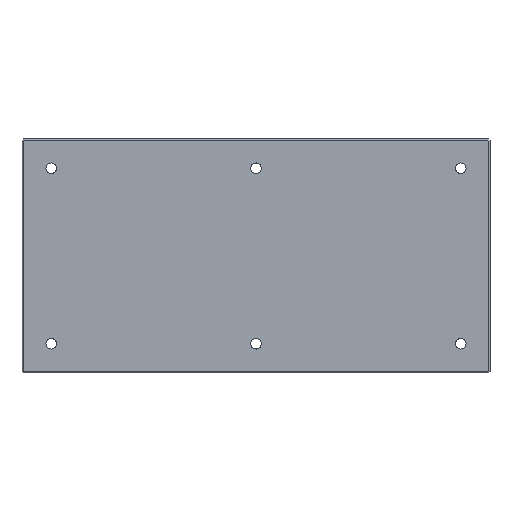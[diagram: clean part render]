
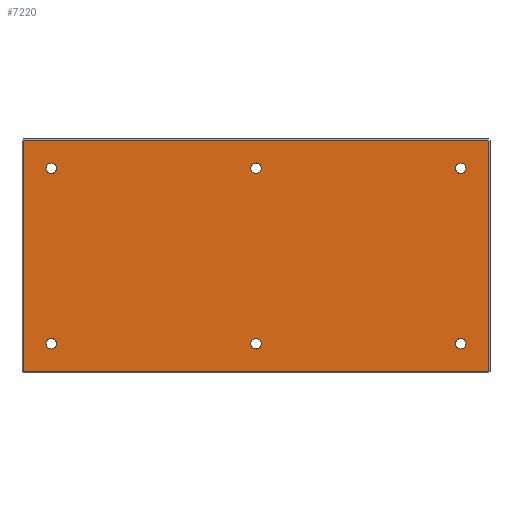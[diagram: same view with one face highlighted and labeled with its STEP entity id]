
A CAD part, front view. The second image highlights one B-rep face of the part: STEP entity #7220.
In plain terms, the highlighted planar face has unit normal (0, -1, 0).
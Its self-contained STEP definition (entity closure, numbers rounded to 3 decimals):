
#1=CARTESIAN_POINT('',(350.,-30.,150.));
#2=DIRECTION('',(0.,1.,0.));
#3=DIRECTION('',(1.,0.,0.));
#4=AXIS2_PLACEMENT_3D('',#1,#2,#3);
#6=CARTESIAN_POINT('',(350.,-30.,150.));
#7=DIRECTION('',(0.,1.,0.));
#8=DIRECTION('',(-1.,0.,0.));
#9=AXIS2_PLACEMENT_3D('',#6,#7,#8);
#11=CARTESIAN_POINT('',(0.,-30.,150.));
#12=DIRECTION('',(0.,1.,0.));
#13=DIRECTION('',(1.,0.,0.));
#14=AXIS2_PLACEMENT_3D('',#11,#12,#13);
#16=CARTESIAN_POINT('',(0.,-30.,150.));
#17=DIRECTION('',(0.,1.,0.));
#18=DIRECTION('',(-1.,0.,0.));
#19=AXIS2_PLACEMENT_3D('',#16,#17,#18);
#21=CARTESIAN_POINT('',(-350.,-30.,150.));
#22=DIRECTION('',(0.,1.,0.));
#23=DIRECTION('',(1.,0.,0.));
#24=AXIS2_PLACEMENT_3D('',#21,#22,#23);
#26=CARTESIAN_POINT('',(-350.,-30.,150.));
#27=DIRECTION('',(0.,1.,0.));
#28=DIRECTION('',(-1.,0.,0.));
#29=AXIS2_PLACEMENT_3D('',#26,#27,#28);
#31=CARTESIAN_POINT('',(350.,-30.,-150.));
#32=DIRECTION('',(0.,-1.,0.));
#33=DIRECTION('',(1.,0.,0.));
#34=AXIS2_PLACEMENT_3D('',#31,#32,#33);
#36=CARTESIAN_POINT('',(350.,-30.,-150.));
#37=DIRECTION('',(0.,-1.,0.));
#38=DIRECTION('',(-1.,0.,0.));
#39=AXIS2_PLACEMENT_3D('',#36,#37,#38);
#41=CARTESIAN_POINT('',(0.,-30.,-150.));
#42=DIRECTION('',(0.,-1.,0.));
#43=DIRECTION('',(1.,0.,0.));
#44=AXIS2_PLACEMENT_3D('',#41,#42,#43);
#46=CARTESIAN_POINT('',(0.,-30.,-150.));
#47=DIRECTION('',(0.,-1.,0.));
#48=DIRECTION('',(-1.,0.,0.));
#49=AXIS2_PLACEMENT_3D('',#46,#47,#48);
#51=CARTESIAN_POINT('',(-350.,-30.,-150.));
#52=DIRECTION('',(0.,-1.,0.));
#53=DIRECTION('',(1.,0.,0.));
#54=AXIS2_PLACEMENT_3D('',#51,#52,#53);
#56=CARTESIAN_POINT('',(-350.,-30.,-150.));
#57=DIRECTION('',(0.,-1.,0.));
#58=DIRECTION('',(-1.,0.,0.));
#59=AXIS2_PLACEMENT_3D('',#56,#57,#58);
#61=DIRECTION('',(0.707,0.,-0.707));
#62=VECTOR('',#61,1.757);
#63=CARTESIAN_POINT('',(-397.,-30.,-195.757));
#64=LINE('',#63,#62);
#65=DIRECTION('',(0.,0.,-1.));
#66=VECTOR('',#65,391.515);
#67=CARTESIAN_POINT('',(-397.,-30.,195.757));
#68=LINE('',#67,#66);
#69=DIRECTION('',(-0.707,0.,-0.707));
#70=VECTOR('',#69,1.757);
#71=CARTESIAN_POINT('',(-395.757,-30.,197.));
#72=LINE('',#71,#70);
#73=DIRECTION('',(-1.,0.,0.));
#74=VECTOR('',#73,791.515);
#75=CARTESIAN_POINT('',(395.757,-30.,197.));
#76=LINE('',#75,#74);
#77=DIRECTION('',(-0.707,0.,0.707));
#78=VECTOR('',#77,1.757);
#79=CARTESIAN_POINT('',(397.,-30.,195.757));
#80=LINE('',#79,#78);
#81=DIRECTION('',(0.,0.,1.));
#82=VECTOR('',#81,391.515);
#83=CARTESIAN_POINT('',(397.,-30.,-195.757));
#84=LINE('',#83,#82);
#85=DIRECTION('',(0.707,0.,0.707));
#86=VECTOR('',#85,1.757);
#87=CARTESIAN_POINT('',(395.757,-30.,-197.));
#88=LINE('',#87,#86);
#89=DIRECTION('',(1.,0.,0.));
#90=VECTOR('',#89,791.515);
#91=CARTESIAN_POINT('',(-395.757,-30.,-197.));
#92=LINE('',#91,#90);
#6433=CARTESIAN_POINT('',(359.,-30.,150.));
#6434=CARTESIAN_POINT('',(341.,-30.,150.));
#6435=VERTEX_POINT('',#6433);
#6436=VERTEX_POINT('',#6434);
#6469=CARTESIAN_POINT('',(9.,-30.,150.));
#6470=CARTESIAN_POINT('',(-9.,-30.,150.));
#6471=VERTEX_POINT('',#6469);
#6472=VERTEX_POINT('',#6470);
#6497=CARTESIAN_POINT('',(-341.,-30.,150.));
#6498=CARTESIAN_POINT('',(-359.,-30.,150.));
#6499=VERTEX_POINT('',#6497);
#6500=VERTEX_POINT('',#6498);
#6541=CARTESIAN_POINT('',(359.,-30.,-150.));
#6542=VERTEX_POINT('',#6541);
#6543=CARTESIAN_POINT('',(341.,-30.,-150.));
#6544=VERTEX_POINT('',#6543);
#6553=CARTESIAN_POINT('',(9.,-30.,-150.));
#6554=VERTEX_POINT('',#6553);
#6555=CARTESIAN_POINT('',(-9.,-30.,-150.));
#6556=VERTEX_POINT('',#6555);
#6565=CARTESIAN_POINT('',(-341.,-30.,-150.));
#6566=VERTEX_POINT('',#6565);
#6567=CARTESIAN_POINT('',(-359.,-30.,-150.));
#6568=VERTEX_POINT('',#6567);
#7025=CARTESIAN_POINT('',(-397.,-30.,-195.757));
#7026=CARTESIAN_POINT('',(-395.757,-30.,-197.));
#7027=VERTEX_POINT('',#7025);
#7028=VERTEX_POINT('',#7026);
#7035=CARTESIAN_POINT('',(395.757,-30.,-197.));
#7036=VERTEX_POINT('',#7035);
#7037=CARTESIAN_POINT('',(397.,-30.,-195.757));
#7038=VERTEX_POINT('',#7037);
#7043=CARTESIAN_POINT('',(397.,-30.,195.757));
#7044=VERTEX_POINT('',#7043);
#7045=CARTESIAN_POINT('',(395.757,-30.,197.));
#7046=VERTEX_POINT('',#7045);
#7051=CARTESIAN_POINT('',(-395.757,-30.,197.));
#7052=VERTEX_POINT('',#7051);
#7055=CARTESIAN_POINT('',(-397.,-30.,195.757));
#7056=VERTEX_POINT('',#7055);
#7161=CARTESIAN_POINT('',(0.,-30.,0.));
#7162=DIRECTION('',(0.,1.,0.));
#7163=DIRECTION('',(1.,0.,0.));
#7164=AXIS2_PLACEMENT_3D('',#7161,#7162,#7163);
#7165=PLANE('',#7164);
#7167=ORIENTED_EDGE('',*,*,#7166,.F.);
#7169=ORIENTED_EDGE('',*,*,#7168,.F.);
#7171=ORIENTED_EDGE('',*,*,#7170,.F.);
#7173=ORIENTED_EDGE('',*,*,#7172,.F.);
#7175=ORIENTED_EDGE('',*,*,#7174,.F.);
#7177=ORIENTED_EDGE('',*,*,#7176,.F.);
#7179=ORIENTED_EDGE('',*,*,#7178,.F.);
#7181=ORIENTED_EDGE('',*,*,#7180,.F.);
#7182=EDGE_LOOP('',(#7167,#7169,#7171,#7173,#7175,#7177,#7179,#7181));
#7183=FACE_OUTER_BOUND('',#7182,.F.);
#7185=ORIENTED_EDGE('',*,*,#7184,.F.);
#7187=ORIENTED_EDGE('',*,*,#7186,.F.);
#7188=EDGE_LOOP('',(#7185,#7187));
#7189=FACE_BOUND('',#7188,.F.);
#7191=ORIENTED_EDGE('',*,*,#7190,.F.);
#7193=ORIENTED_EDGE('',*,*,#7192,.F.);
#7194=EDGE_LOOP('',(#7191,#7193));
#7195=FACE_BOUND('',#7194,.F.);
#7197=ORIENTED_EDGE('',*,*,#7196,.T.);
#7199=ORIENTED_EDGE('',*,*,#7198,.T.);
#7200=EDGE_LOOP('',(#7197,#7199));
#7201=FACE_BOUND('',#7200,.F.);
#7203=ORIENTED_EDGE('',*,*,#7202,.T.);
#7205=ORIENTED_EDGE('',*,*,#7204,.T.);
#7206=EDGE_LOOP('',(#7203,#7205));
#7207=FACE_BOUND('',#7206,.F.);
#7209=ORIENTED_EDGE('',*,*,#7208,.T.);
#7211=ORIENTED_EDGE('',*,*,#7210,.T.);
#7212=EDGE_LOOP('',(#7209,#7211));
#7213=FACE_BOUND('',#7212,.F.);
#7215=ORIENTED_EDGE('',*,*,#7214,.F.);
#7217=ORIENTED_EDGE('',*,*,#7216,.F.);
#7218=EDGE_LOOP('',(#7215,#7217));
#7219=FACE_BOUND('',#7218,.F.);
#7220=ADVANCED_FACE('',(#7183,#7189,#7195,#7201,#7207,#7213,#7219),#7165,.F.);
#5=CIRCLE('',#4,9.);
#10=CIRCLE('',#9,9.);
#15=CIRCLE('',#14,9.);
#20=CIRCLE('',#19,9.);
#25=CIRCLE('',#24,9.);
#30=CIRCLE('',#29,9.);
#35=CIRCLE('',#34,9.);
#40=CIRCLE('',#39,9.);
#45=CIRCLE('',#44,9.);
#50=CIRCLE('',#49,9.);
#55=CIRCLE('',#54,9.);
#60=CIRCLE('',#59,9.);
#7166=EDGE_CURVE('',#7027,#7028,#64,.T.);
#7168=EDGE_CURVE('',#7056,#7027,#68,.T.);
#7170=EDGE_CURVE('',#7052,#7056,#72,.T.);
#7172=EDGE_CURVE('',#7046,#7052,#76,.T.);
#7174=EDGE_CURVE('',#7044,#7046,#80,.T.);
#7176=EDGE_CURVE('',#7038,#7044,#84,.T.);
#7178=EDGE_CURVE('',#7036,#7038,#88,.T.);
#7180=EDGE_CURVE('',#7028,#7036,#92,.T.);
#7184=EDGE_CURVE('',#6471,#6472,#15,.T.);
#7186=EDGE_CURVE('',#6472,#6471,#20,.T.);
#7190=EDGE_CURVE('',#6499,#6500,#25,.T.);
#7192=EDGE_CURVE('',#6500,#6499,#30,.T.);
#7196=EDGE_CURVE('',#6542,#6544,#35,.T.);
#7198=EDGE_CURVE('',#6544,#6542,#40,.T.);
#7202=EDGE_CURVE('',#6554,#6556,#45,.T.);
#7204=EDGE_CURVE('',#6556,#6554,#50,.T.);
#7208=EDGE_CURVE('',#6566,#6568,#55,.T.);
#7210=EDGE_CURVE('',#6568,#6566,#60,.T.);
#7214=EDGE_CURVE('',#6435,#6436,#5,.T.);
#7216=EDGE_CURVE('',#6436,#6435,#10,.T.);
